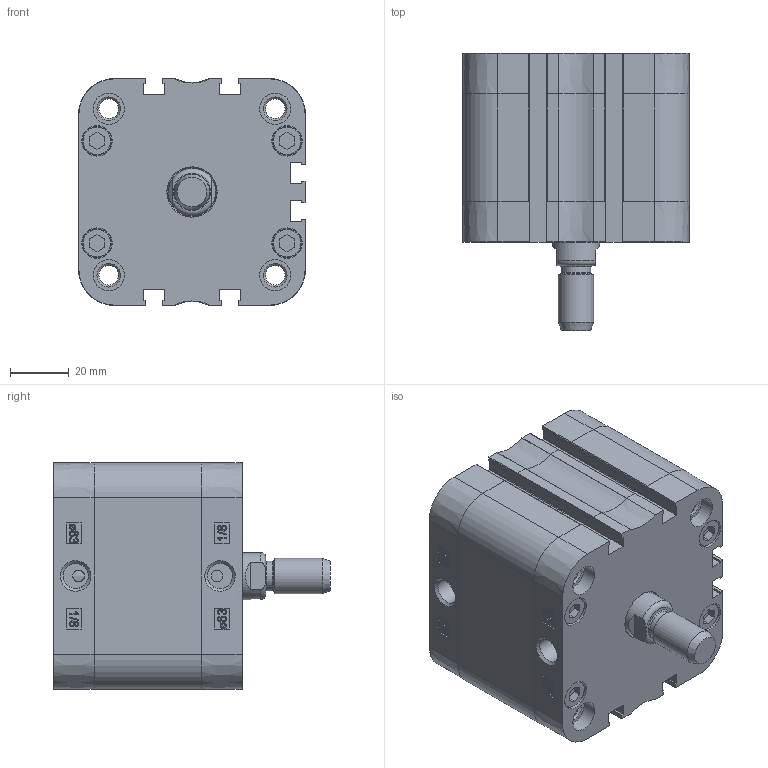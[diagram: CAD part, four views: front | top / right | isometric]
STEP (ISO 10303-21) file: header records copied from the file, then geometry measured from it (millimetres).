
FILE_DESCRIPTION((''),'2;1');
FILE_NAME('T:\Archivio Inventor\- CATALOGHI 2012\SERIE P - NUOVA\PDM\PDM063\PDM063.---.GS.M\PDM063.015.GS.M.stp','2013-02-04T09:18:45',('Administrator'),(''),'Autodesk Inventor 2012','Autodesk Inventor 2012','');
FILE_SCHEMA(('CONFIG_CONTROL_DESIGN'));
Length unit declared in the file: millimetre
Products named in the file (1): PDM063.015.GS.M
Bounding box: 77 x 94 x 77 mm (x, y, z)
Volume: 201242.7 mm3; surface area: 75440.1 mm2
Topology: 1 solids, 5 shells, 824 faces, 1993 edges, 1252 vertices
Faces by surface type: plane 346, bspline 218, cylinder 142, torus 55, cone 45, sphere 18
Full cylindrical faces by diameter (mm): 4 x2, 6.3 x4, 6.647 x8, 8.047 x4, 8.566 x2, 9.8 x8, 10 x1, 10.3 x8, 10.5 x8, 12 x2, 16 x1, 16.5 x1, 63 x1, 65.4 x1, 65.6 x1
Entity records: 27348 total; most frequent: CARTESIAN_POINT 9100, ORIENTED_EDGE 3744, DIRECTION 3031, EDGE_CURVE 1872, VERTEX_POINT 1231, AXIS2_PLACEMENT_3D 1026, EDGE_LOOP 1003, VECTOR 979
